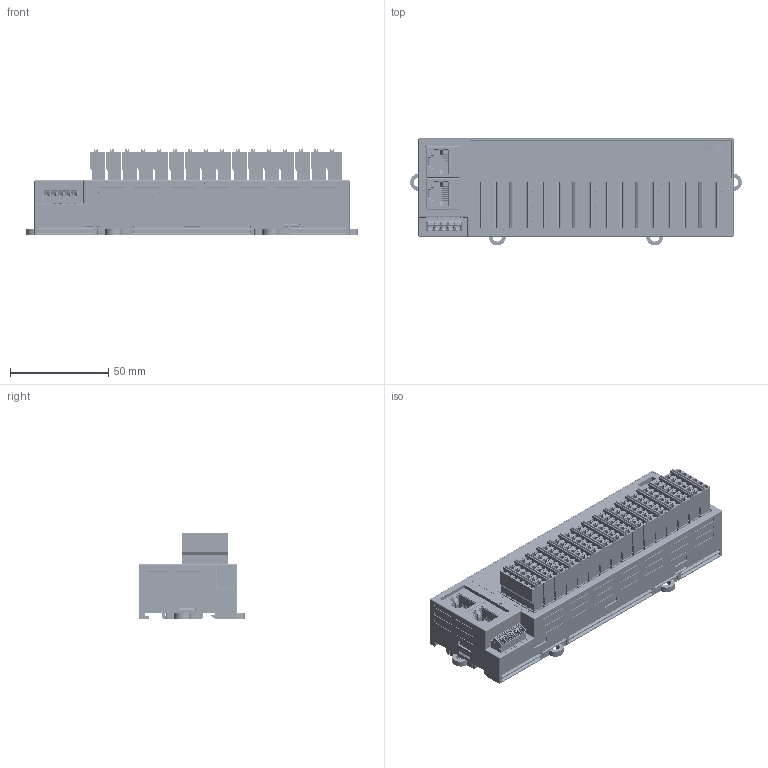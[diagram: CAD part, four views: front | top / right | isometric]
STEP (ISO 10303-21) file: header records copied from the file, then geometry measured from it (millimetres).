
FILE_DESCRIPTION((''),'2;1');
FILE_NAME('HCNXE-MD2408-D-DUIWAI_ASM_ASM','2021-09-23T13:26:24',('Naoki'),(''),'CREO PARAMETRIC BY PTC INC, 2018050','CREO PARAMETRIC BY PTC INC, 2018050','');
FILE_SCHEMA(('CONFIG_CONTROL_DESIGN','SHAPE_APPEARANCE_LAYERS_GROUPS'));
Products named in the file (1): HCNXE-MD2408-D-DUIWAI_ASM_ASM
Bounding box: 168.6 x 54.3 x 44 mm (x, y, z)
Volume: 183338.4 mm3; surface area: 145145.1 mm2
Topology: 30 solids, 298 shells, 14479 faces, 44330 edges, 29975 vertices
Faces by surface type: plane 10938, cylinder 1901, cone 630, bspline 351, extrusion 231, torus 221, sphere 207
Entity records: 715975 total; most frequent: CARTESIAN_POINT 165822, ORIENTED_EDGE 83841, DIRECTION 71952, EDGE_CURVE 44134, PRESENTATION_STYLE_ASSIGNMENT 38920, STYLED_ITEM 33596, VECTOR 32630, LINE 32399
